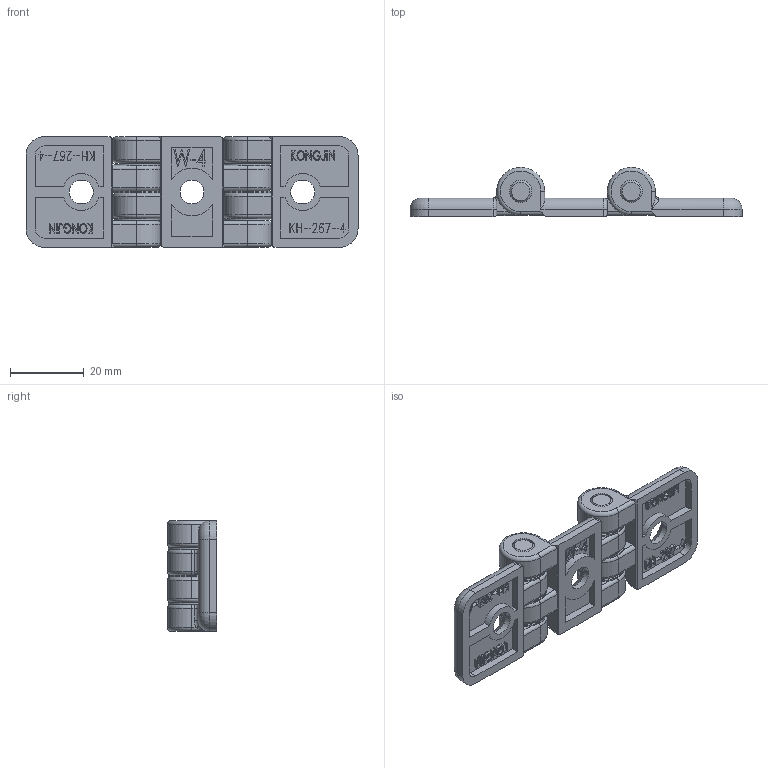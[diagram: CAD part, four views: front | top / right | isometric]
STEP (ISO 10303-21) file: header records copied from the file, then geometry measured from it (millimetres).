
FILE_DESCRIPTION (( 'STEP AP214' ), '1' );
FILE_NAME ('B30 KH-267W-4.STEP', '2012-03-20T06:14:10', ( '' ), ( '' ), 'SwSTEP 2.0', 'SolidWorks 2012', '' );
FILE_SCHEMA (( 'AUTOMOTIVE_DESIGN' ));
Length unit declared in the file: millimetre
Products named in the file (5): KH-267W-4(WASHER); KH-267W-4(PIN); KH-267W-4(BODY(2)); KH-267W-4(BODY(1)); B30 KH-267W-4
Assembly tree (11 placements, depth 2):
  B30 KH-267W-4
    KH-267W-4(BODY(1))  x2
    KH-267W-4(BODY(2))
    KH-267W-4(PIN)  x2
    KH-267W-4(WASHER)  x6
Bounding box: 90 x 13.3 x 30 mm (x, y, z)
Volume: 14680.9 mm3; surface area: 13071.5 mm2
Topology: 11 solids, 11 shells, 741 faces, 1932 edges, 1257 vertices
Faces by surface type: plane 510, cylinder 134, bspline 46, torus 37, cone 14
Entity records: 14597 total; most frequent: CARTESIAN_POINT 3998, ORIENTED_EDGE 2198, DIRECTION 2058, EDGE_CURVE 1099, VECTOR 848, LINE 848, VERTEX_POINT 713, AXIS2_PLACEMENT_3D 605
